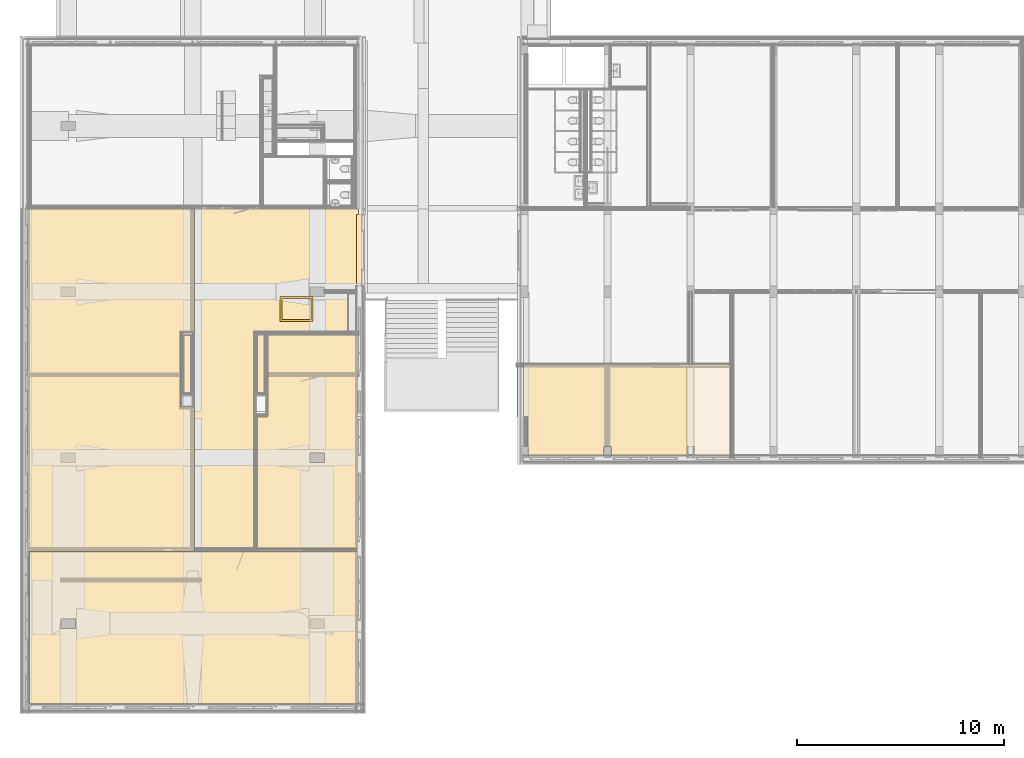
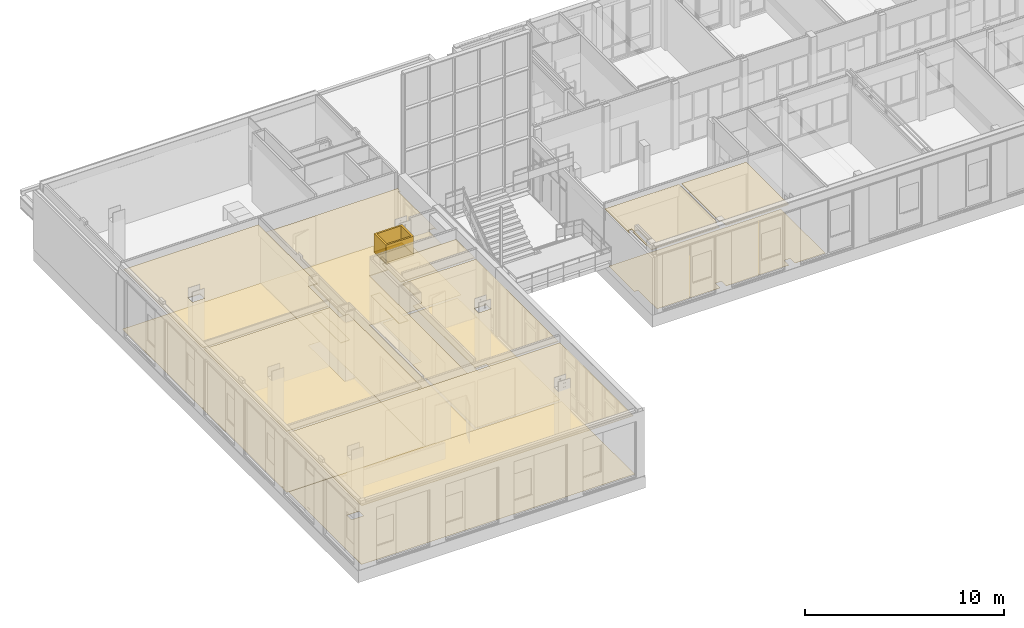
# One storey, part 80 of 94: 16 coverings.
"""IFC2X3 building model written with IfcOpenShell, lengths in millimetres."""

from ifc_helpers import new_model, entity, si_unit, converted_unit, derived_unit, money_unit, direction, frame, origin_with_axes, place, context, subcontext, project, spatial, faceted_brep, material, type_object, element, save


model = new_model("IFC2X3")

# Units and contexts
model_context = context("Model", 3, precision=0.01, world=origin_with_axes(), true_north=direction((0.0, 1.0)))
body_context = subcontext(model_context, "Body", "Model", "MODEL_VIEW")
ifc_project = project(units=[si_unit("LENGTHUNIT", "METRE", prefix="MILLI"), si_unit("AREAUNIT", "SQUARE_METRE"), si_unit("VOLUMEUNIT", "CUBIC_METRE"), converted_unit("PLANEANGLEUNIT", "DEGREE", entity("IfcPlaneAngleMeasure", 0.0174532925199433), si_unit("PLANEANGLEUNIT", "RADIAN"), dimensions=[0, 0, 0, 0, 0, 0, 0]), money_unit("EUR"), converted_unit("TIMEUNIT", "Year", entity("IfcTimeMeasure", 31557600.0), si_unit("TIMEUNIT", "SECOND"), dimensions=[0, 0, 1, 0, 0, 0, 0]), si_unit("MASSUNIT", "GRAM", prefix="KILO"), si_unit("THERMODYNAMICTEMPERATUREUNIT", "DEGREE_CELSIUS"), si_unit("LUMINOUSINTENSITYUNIT", "LUMEN"), si_unit("ENERGYUNIT", "JOULE", prefix="MEGA"), derived_unit("THERMALCONDUCTANCEUNIT", [(si_unit("POWERUNIT", "WATT"), 1), (si_unit("LENGTHUNIT", "METRE"), -1), (si_unit("THERMODYNAMICTEMPERATUREUNIT", "KELVIN"), -1)]), derived_unit("SPECIFICHEATCAPACITYUNIT", [(si_unit("ENERGYUNIT", "JOULE"), 1), (si_unit("MASSUNIT", "GRAM", prefix="KILO"), -1), (si_unit("THERMODYNAMICTEMPERATUREUNIT", "KELVIN"), -1)]), derived_unit("MASSDENSITYUNIT", [(si_unit("MASSUNIT", "GRAM", prefix="KILO"), 1), (si_unit("VOLUMEUNIT", "CUBIC_METRE"), -1)])], contexts=[model_context])

# Site, building, storey
site_placement = place(None, origin_with_axes())
site = spatial("IfcSite", under=ifc_project, at=site_placement, Name="<site naam>", CompositionType="ELEMENT")
building_placement = place(site_placement, origin_with_axes())
building = spatial("IfcBuilding", under=site, at=building_placement, Name="<Naam gebouw>", CompositionType="ELEMENT")
storey_placement = place(building_placement, frame((0.0, 0.0, 4250.0), z_axis=(0.0, 0.0, 1.0), x_axis=(1.0, 0.0, 0.0)))
storey = spatial("IfcBuildingStorey", under=building, at=storey_placement, Name="01 1e verdieping", CompositionType="ELEMENT", Elevation=4250.0)

# Coverings
ifc_material_1 = material(Name="systeemplafond 600*600 kleur wit")
covering_type_1 = type_object("IfcCoveringType", Name="PA-01a 40", PredefinedType="CEILING")
covering_1_placement = place(storey_placement, frame((-11970.99999882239, -4376.565197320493, 3600.0), z_axis=(0.0, 0.0, 1.0), x_axis=(1.0, 0.0, 0.0)))
element("IfcCovering", 1, at=covering_1_placement, inside=storey, type_object=covering_type_1, material=ifc_material_1, Name="45_Vloer_PA-01a", PredefinedType="CEILING", context=body_context, shape_type="Brep", body=[
    faceted_brep([(7376.00057698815, 8314.065197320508, 0.0), (80.49999882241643, 8314.065197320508, 0.0), (80.49999882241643, 8314.065197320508, 40.00000000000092), (7376.00057698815, 8314.065197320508, 40.00000000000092), (7896.000027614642, 0.0, 0.0), (80.49999882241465, 0.0, 0.0), (7376.00057698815, 7331.668955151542, 0.0), (7896.000027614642, 7331.668955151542, 0.0), (80.49999882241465, 0.0, 40.00000000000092), (7896.000027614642, 0.0, 40.00000000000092), (7896.000027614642, 7331.668955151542, 40.00000000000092), (7376.00057698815, 7331.668955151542, 40.00000000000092)], [[[0, 1, 2, 3]], [[4, 5, 1, 0, 6, 7]], [[5, 8, 2, 1]], [[3, 2, 8, 9, 10, 11]], [[3, 11, 6, 0]], [[9, 8, 5, 4]], [[11, 10, 7, 6]], [[10, 9, 4, 7]]]),
])
covering_2_placement = place(storey_placement, frame((11626.61799167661, 4385.011925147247, 3700.0), z_axis=(0.0, 0.0, 1.0), x_axis=(1.0, 0.0, 0.0)))
element("IfcCovering", 2, at=covering_2_placement, inside=storey, type_object=covering_type_1, material=ifc_material_1, Name="45_Vloer_PA-01a", PredefinedType="CEILING", context=body_context, shape_type="Brep", body=[
    faceted_brep([(295.9512778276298, -2237.021152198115, 0.0), (276.4043794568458, -2237.021152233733, 0.0), (276.4043794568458, -2237.021152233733, 40.00000000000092), (295.9512778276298, -2237.021152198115, 40.00000000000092), (212.8525614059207, -2469.52422524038, 0.0), (276.4043794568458, -2469.52422524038, 0.0), (295.9512834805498, -2489.071134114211, 0.0), (295.9043711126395, -2489.024220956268, 0.0), (212.8525614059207, -2489.024220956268, 0.0), (276.4043794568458, -2469.52422524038, 40.00000000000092), (212.8525614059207, -2469.52422524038, 40.00000000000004), (212.8525614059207, -2489.024220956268, 40.00000000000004), (295.9043711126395, -2489.024220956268, 40.00000000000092), (295.9512834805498, -2489.071134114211, 40.00000000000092)], [[[0, 1, 2, 3]], [[4, 5, 1, 0, 6, 7, 8]], [[5, 9, 2, 1]], [[2, 9, 10, 11, 12, 13, 3]], [[0, 3, 13, 6]], [[4, 10, 9, 5]], [[7, 6, 13, 12]], [[7, 12, 11, 8]], [[11, 10, 4, 8]]]),
    faceted_brep([(242.4043692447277, -2217.556166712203, 40.00000000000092), (277.377945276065, -2217.556167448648, 40.00000000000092), (277.377945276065, -2236.021274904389, 40.00000000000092), (296.9043723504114, -2236.021274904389, 40.00000000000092), (296.9043723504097, -2490.024226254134, 40.00000000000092), (212.8525614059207, -2490.024226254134, 40.00000000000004), (212.8525614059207, -3835.011925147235, 40.00000000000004), (237.8525236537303, -3835.011925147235, 40.00000000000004), (237.8525236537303, -4269.011844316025, 40.00000000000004), (4198.382036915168, -4269.011844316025, 40.00000000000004), (4198.382036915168, -3835.011925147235, 40.00000000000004), (4298.382008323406, -3835.011925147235, 40.00000000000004), (4298.382008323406, 0.0, 40.00000000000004), (0.0, 0.0, 40.00000000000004), (0.0, -2430.011875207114, 40.00000000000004), (38.38195643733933, -2430.011875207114, 40.00000000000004), (38.38195600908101, -2231.021274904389, 40.00000000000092), (242.4043692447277, -2231.021276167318, 40.00000000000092), (308.3820460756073, -2430.011947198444, 40.00000000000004), (510.8820460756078, -2430.011947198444, 40.00000000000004), (510.8820460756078, -3835.011858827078, 40.00000000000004), (308.3820460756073, -3835.011858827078, 40.00000000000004), (242.4043692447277, -2217.556166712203, 0.0), (277.377945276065, -2217.556167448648, 0.0), (277.377945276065, -2236.021274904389, 0.0), (296.9043723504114, -2236.021274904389, 0.0), (296.9043723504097, -2490.024226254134, 0.0), (212.8525614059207, -2490.024226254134, 0.0), (212.8525614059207, -3835.011925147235, 0.0), (237.8525236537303, -3835.011925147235, 0.0), (237.8525236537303, -4269.011844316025, 0.0), (4198.382036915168, -4269.011844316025, 0.0), (4198.382036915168, -3835.011925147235, 0.0), (4298.382008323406, -3835.011925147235, 0.0), (4298.382008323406, 0.0, 0.0), (0.0, 0.0, 0.0), (0.0, -2430.011875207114, 0.0), (38.38195643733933, -2430.011875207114, 0.0), (38.38195600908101, -2231.021274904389, 0.0), (242.4043692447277, -2231.021276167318, 0.0), (308.3820460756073, -2430.011947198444, 0.0), (510.8820460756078, -2430.011947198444, 0.0), (510.8820460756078, -3835.011858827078, 0.0), (308.3820460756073, -3835.011858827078, 0.0)], [[[0, 1, 2, 3, 4, 5, 6, 7, 8, 9, 10, 11, 12, 13, 14, 15, 16, 17], [18, 19, 20, 21]], [[0, 22, 23, 1]], [[24, 2, 1, 23]], [[25, 3, 2, 24]], [[26, 4, 3, 25]], [[5, 4, 26, 27]], [[6, 5, 27, 28]], [[29, 7, 6, 28]], [[30, 8, 7, 29]], [[31, 9, 8, 30]], [[32, 10, 9, 31]], [[33, 11, 10, 32]], [[34, 12, 11, 33]], [[35, 13, 12, 34]], [[36, 14, 13, 35]], [[36, 37, 15, 14]], [[38, 16, 15, 37]], [[38, 39, 17, 16]], [[22, 0, 17, 39]], [[18, 40, 41, 19]], [[41, 42, 20, 19]], [[43, 21, 20, 42]], [[43, 40, 18, 21]], [[23, 22, 39, 38, 37, 36, 35, 34, 33, 32, 31, 30, 29, 28, 27, 26, 25, 24], [43, 42, 41, 40]]]),
])
covering_3_placement = place(storey_placement, frame((3970.044465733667, 5924.99995037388, 3600.0), z_axis=(0.0, 0.0, 1.0), x_axis=(1.0, 0.0, 0.0)))
element("IfcCovering", 3, at=covering_3_placement, inside=storey, type_object=covering_type_1, material=ifc_material_1, Name="45_Vloer_PA-01a", PredefinedType="CEILING", context=body_context, shape_type="Brep", body=[
    faceted_brep([(-79.50002639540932, 0.0, 0.0), (-4362.54446573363, 0.0, 0.0), (-4362.54446573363, 0.0, 40.00000000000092), (-79.50002639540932, 0.0, 40.00000000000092), (-79.50002639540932, -1849.999909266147, 0.0), (-4362.544465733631, -1849.999909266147, 0.0), (-4362.544465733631, -1849.999909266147, 40.00000000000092), (-79.50002639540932, -1849.999909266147, 40.00000000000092)], [[[0, 1, 2, 3]], [[4, 5, 1, 0]], [[5, 6, 2, 1]], [[3, 2, 6, 7]], [[4, 0, 3, 7]], [[7, 6, 5, 4]]]),
])
covering_4_placement = place(storey_placement, frame((-899.9999801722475, 224.9999499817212, 3600.0), z_axis=(0.0, 0.0, 1.0), x_axis=(1.0, 0.0, 0.0)))
element("IfcCovering", 4, at=covering_4_placement, inside=storey, type_object=covering_type_1, material=ifc_material_1, Name="45_Vloer_PA-01a", PredefinedType="CEILING", context=body_context, shape_type="Brep", body=[
    faceted_brep([(0.0, -4601.565170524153, 40.00000000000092), (0.0, -4601.565170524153, 0.0), (4784.044407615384, -4601.565170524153, 0.0), (4784.044407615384, -4601.565170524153, 40.00000000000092), (0.0, 1750.000050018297, 40.00000000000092), (0.0, 1750.000050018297, 0.0), (519.999997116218, 1750.000050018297, 0.0), (519.999997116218, 3700.000055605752, 0.0), (4784.044407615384, 3700.000055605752, 0.0), (3249.999920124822, 0.0, 0.0), (2549.999943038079, 0.0, 0.0), (2549.999943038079, -449.999888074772, 0.0), (3249.999920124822, -449.999888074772, 0.0), (4784.044407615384, 3700.000055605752, 40.00000000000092), (519.999997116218, 3700.000055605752, 40.00000000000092), (519.999997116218, 1750.000050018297, 40.00000000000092), (2549.999943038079, -449.999888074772, 40.00000000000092), (2549.999943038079, 0.0, 40.00000000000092), (3249.999920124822, 0.0, 40.00000000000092), (3249.999920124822, -449.999888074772, 40.00000000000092)], [[[0, 1, 2, 3]], [[4, 5, 1, 0]], [[1, 5, 6, 7, 8, 2], [9, 10, 11, 12]], [[3, 2, 8, 13]], [[4, 0, 3, 13, 14, 15], [16, 17, 18, 19]], [[15, 6, 5, 4]], [[14, 7, 6, 15]], [[13, 8, 7, 14]], [[17, 10, 9, 18]], [[16, 11, 10, 17]], [[19, 12, 11, 16]], [[18, 9, 12, 19]]]),
])
covering_5_placement = place(storey_placement, frame((-4074.999953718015, 12000.00000000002, 3600.0), z_axis=(0.0, 0.0, 1.0), x_axis=(1.0, 0.0, 0.0)))
element("IfcCovering", 5, at=covering_5_placement, inside=storey, type_object=covering_type_1, material=ifc_material_1, Name="45_Vloer_PA-01a", PredefinedType="CEILING", context=body_context, shape_type="Brep", body=[
    faceted_brep([(0.0, 0.0, 40.00000000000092), (0.0, 0.0, 0.0), (-7809.000046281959, 0.0, 0.0), (-7809.000046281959, 0.0, 40.00000000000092), (0.0, -5924.896310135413, 40.00000000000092), (0.0, -5924.896310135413, 0.0), (-519.9994681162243, -5924.896310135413, 0.0), (-519.9994681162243, -7937.500000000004, 0.0), (-7809.000046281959, -7937.500000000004, 0.0), (-6275.000046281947, -4225.000018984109, 0.0), (-5575.000046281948, -4225.000018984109, 0.0), (-5575.000046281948, -3775.000044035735, 0.0), (-6275.000046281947, -3775.000044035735, 0.0), (-7809.000046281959, -7937.500000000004, 40.00000000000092), (-519.9994681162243, -7937.500000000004, 40.00000000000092), (-519.9994681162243, -5924.896310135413, 40.00000000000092), (-5575.000046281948, -3775.000044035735, 40.00000000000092), (-5575.000046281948, -4225.000018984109, 40.00000000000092), (-6275.000046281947, -4225.000018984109, 40.00000000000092), (-6275.000046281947, -3775.000044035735, 40.00000000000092)], [[[0, 1, 2, 3]], [[4, 5, 1, 0]], [[2, 1, 5, 6, 7, 8], [9, 10, 11, 12]], [[3, 2, 8, 13]], [[4, 0, 3, 13, 14, 15], [16, 17, 18, 19]], [[15, 6, 5, 4]], [[14, 7, 6, 15]], [[13, 8, 7, 14]], [[17, 10, 9, 18]], [[16, 11, 10, 17]], [[19, 12, 11, 16]], [[18, 9, 12, 19]]]),
])
covering_6_placement = place(storey_placement, frame((3883.130707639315, -4526.565220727, 3600.0), z_axis=(0.0, 0.0, 1.0), x_axis=(1.0, 0.0, 0.0)))
element("IfcCovering", 6, at=covering_6_placement, inside=storey, type_object=covering_type_1, material=ifc_material_1, Name="45_Vloer_PA-01a", PredefinedType="CEILING", context=body_context, shape_type="Brep", body=[
    faceted_brep([(-15767.13070763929, 0.0, 40.00000000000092), (0.0, 0.0, 40.00000000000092), (0.0, 0.0, 0.0), (-15767.13070763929, 0.0, 0.0), (-15767.13070763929, -7357.434779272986, 40.00000000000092), (0.0, -7357.434779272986, 40.00000000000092), (0.0, -7357.434779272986, 0.0), (-15767.13070763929, -7357.434779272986, 0.0)], [[[0, 1, 2, 3]], [[4, 5, 1, 0]], [[1, 5, 6, 2]], [[7, 3, 2, 6]], [[4, 0, 3, 7]], [[5, 4, 7, 6]]]),
])
covering_7_placement = place(storey_placement, frame((16075.00615436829, 550.0001262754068, 3700.0), z_axis=(0.0, 0.0, 1.0), x_axis=(1.0, 0.0, 0.0)))
element("IfcCovering", 7, at=covering_7_placement, inside=storey, type_object=covering_type_1, material=ifc_material_1, Name="45_Vloer_PA-01a", PredefinedType="CEILING", context=body_context, shape_type="Brep", body=[
    faceted_brep([(99.99989282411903, 0.0, 40.00000000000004), (99.99989282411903, -440.5001262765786, 40.00000000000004), (3750.000081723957, -440.5001262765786, 40.00000000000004), (3750.000081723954, 3824.999841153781, 40.00000000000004), (0.0, 3824.999841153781, 40.00000000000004), (0.0, 0.0, 40.00000000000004), (99.99989282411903, 0.0, 0.0), (99.99989282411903, -440.5001262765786, 0.0), (3750.000081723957, -440.5001262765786, 0.0), (3750.000081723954, 3824.999841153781, 0.0), (0.0, 3824.999841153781, 0.0), (0.0, 0.0, 0.0)], [[[0, 1, 2, 3, 4, 5]], [[6, 7, 1, 0]], [[7, 8, 2, 1]], [[3, 2, 8, 9]], [[4, 3, 9, 10]], [[5, 4, 10, 11]], [[0, 5, 11, 6]], [[9, 8, 7, 6, 11, 10]]]),
])
ifc_material_2 = material(Name="systeemplafond 600*600")
covering_type_2 = type_object("IfcCoveringType", Name="PA-01c 40", PredefinedType="CEILING")
covering_8_placement = place(storey_placement, frame((-3925.000046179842, -4376.565187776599, 3000.0), z_axis=(0.0, 0.0, 1.0), x_axis=(1.0, 0.0, 0.0)))
element("IfcCovering", 8, at=covering_8_placement, inside=storey, type_object=covering_type_2, material=ifc_material_2, Name="45_Vloer_PA-01c", PredefinedType="CEILING", context=body_context, shape_type="Brep", body=[
    faceted_brep([(7409.001798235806, 12301.56518777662, 40.00000000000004), (7409.001798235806, 12439.06518777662, 40.00000000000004), (7809.044485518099, 12439.06518777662, 40.00000000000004), (7809.044485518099, 12301.56518777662, 40.00000000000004), (7815.544485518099, 12301.56518777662, 40.00000000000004), (7815.544485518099, 12651.72781439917, 40.00000000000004), (7819.544485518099, 12651.72781439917, 40.00000000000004), (7819.5444855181, 16101.96201869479, 40.00000000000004), (7925.0445143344, 16101.96201869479, 40.00000000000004), (7925.044514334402, 16376.56518777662, 40.00000000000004), (7735.044514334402, 16376.56518777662, 40.00000000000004), (7735.044514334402, 16376.64651224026, 40.00000000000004), (0.0, 16376.64651224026, 40.00000000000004), (0.0, 0.0, 40.00000000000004), (2874.999888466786, 0.0, 40.00000000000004), (2874.999888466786, 10451.56527172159, 40.00000000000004), (7409.001798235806, 10451.56527172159, 40.00000000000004), (4125.000046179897, 12151.5651847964, 40.00000000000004), (5725.000046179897, 12151.5651847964, 40.00000000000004), (5725.000046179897, 10951.56518777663, 40.00000000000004), (4125.000046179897, 10951.56518777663, 40.00000000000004), (7409.001798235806, 12301.56518777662, 0.0), (7409.001798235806, 12439.06518777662, 0.0), (7809.044485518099, 12439.06518777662, 0.0), (7809.044485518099, 12301.56518777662, 0.0), (7815.544485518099, 12301.56518777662, 0.0), (7815.544485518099, 12651.72781439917, 0.0), (7819.544485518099, 12651.72781439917, 0.0), (7819.5444855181, 16101.96201869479, 0.0), (7925.0445143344, 16101.96201869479, 0.0), (7925.044514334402, 16376.56518777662, 0.0), (7735.044514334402, 16376.56518777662, 0.0), (7735.044514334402, 16376.64651224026, 0.0), (0.0, 16376.64651224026, 0.0), (0.0, 0.0, 0.0), (2874.999888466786, 0.0, 0.0), (2874.999888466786, 10451.56527172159, 0.0), (7409.001798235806, 10451.56527172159, 0.0), (4125.000046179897, 12151.5651847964, 0.0), (5725.000046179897, 12151.5651847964, 0.0), (5725.000046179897, 10951.56518777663, 0.0), (4125.000046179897, 10951.56518777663, 0.0)], [[[0, 1, 2, 3, 4, 5, 6, 7, 8, 9, 10, 11, 12, 13, 14, 15, 16], [17, 18, 19, 20]], [[21, 22, 1, 0]], [[23, 2, 1, 22]], [[3, 2, 23, 24]], [[4, 3, 24, 25]], [[26, 5, 4, 25]], [[26, 27, 6, 5]], [[7, 6, 27, 28]], [[28, 29, 8, 7]], [[29, 30, 9, 8]], [[9, 30, 31, 10]], [[31, 32, 11, 10]], [[12, 11, 32, 33]], [[13, 12, 33, 34]], [[14, 13, 34, 35]], [[15, 14, 35, 36]], [[16, 15, 36, 37]], [[37, 21, 0, 16]], [[18, 17, 38, 39]], [[19, 18, 39, 40]], [[20, 19, 40, 41]], [[17, 20, 41, 38]], [[23, 22, 21, 37, 36, 35, 34, 33, 32, 31, 30, 29, 28, 27, 26, 25, 24], [38, 41, 40, 39]]]),
])
ifc_material_3 = material(Name="tapijttegel")
covering_type_3 = type_object("IfcCoveringType", Name="VA-05 3", PredefinedType="CEILING")
covering_9_placement = place(storey_placement, frame((-3924.999876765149, -4526.56526907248, 0.0), z_axis=(0.0, 0.0, 1.0), x_axis=(1.0, 0.0, 0.0)))
element("IfcCovering", 9, at=covering_9_placement, inside=storey, type_object=covering_type_3, material=ifc_material_3, Name="43_Vloer_VA-05", PredefinedType="CEILING", context=body_context, shape_type="Brep", body=[
    faceted_brep([(-7953.000123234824, 0.0, 3.000000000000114), (-7953.000123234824, 0.0, 0.0), (-7953.000123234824, -7353.466352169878, 0.0), (-7953.000123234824, -7353.466352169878, 3.000000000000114), (7895.044469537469, 0.0, 3.000000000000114), (7895.044469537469, 0.0, 0.0), (7895.044469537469, -7353.466352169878, 0.0), (-6425.000125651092, -3698.434904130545, 0.0), (-5725.000079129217, -3698.434904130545, 0.0), (-5725.000079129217, -3248.434798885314, 0.0), (-6425.000125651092, -3248.434798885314, 0.0), (7895.044469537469, -7353.466352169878, 3.000000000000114), (-5725.000079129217, -3248.434798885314, 3.000000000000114), (-5725.000079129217, -3698.434904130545, 3.000000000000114), (-6425.000125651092, -3698.434904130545, 3.000000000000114), (-6425.000125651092, -3248.434798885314, 3.000000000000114)], [[[0, 1, 2, 3]], [[4, 5, 1, 0]], [[1, 5, 6, 2], [7, 8, 9, 10]], [[3, 2, 6, 11]], [[4, 0, 3, 11], [12, 13, 14, 15]], [[11, 6, 5, 4]], [[13, 8, 7, 14]], [[12, 9, 8, 13]], [[15, 10, 9, 12]], [[14, 7, 10, 15]]]),
])
covering_10_placement = place(storey_placement, frame((21925.00639332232, 4524.999967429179, 19.99999999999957), z_axis=(0.0, 0.0, 1.0), x_axis=(1.0, 0.0, 0.0)))
element("IfcCovering", 10, at=covering_10_placement, inside=storey, type_object=covering_type_3, material=ifc_material_3, Name="43_Vloer_VA-05", PredefinedType="CEILING", context=body_context, shape_type="Brep", body=[
    faceted_brep([(0.0, 0.0, 3.000000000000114), (0.0, 0.0, 0.0), (-9990.006441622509, 0.0, 0.0), (-9990.006441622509, 0.0, 3.000000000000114), (0.0, -4450.01672224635, 3.000000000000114), (0.0, -4450.01672224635, 0.0), (-1750.006489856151, -4450.01672224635, 0.0), (-1750.006489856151, -3975.00001350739, 0.0), (-2100.0063642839, -3975.00001350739, 0.0), (-2100.0063642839, -4450.01672224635, 0.0), (-5750.006376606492, -4450.01672224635, 0.0), (-5750.006376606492, -3975.00001350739, 0.0), (-6100.006428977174, -3975.00001350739, 0.0), (-6100.006428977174, -4450.01672224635, 0.0), (-9750.00644129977, -4450.01672224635, 0.0), (-9750.00644129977, -3975.00001350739, 0.0), (-9775.006356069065, -3975.00001350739, 0.0), (-9775.006356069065, -2569.99996342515, 0.0), (-9990.006441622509, -2569.99996342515, 0.0), (-9990.006441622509, -2569.99996342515, 3.000000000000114), (-9775.006356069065, -2569.99996342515, 3.000000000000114), (-9775.006356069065, -3975.00001350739, 3.000000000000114), (-9750.00644129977, -3975.00001350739, 3.000000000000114), (-9750.00644129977, -4450.01672224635, 3.000000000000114), (-6100.006428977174, -4450.01672224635, 3.000000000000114), (-6100.006428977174, -3975.00001350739, 3.000000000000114), (-5750.006376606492, -3975.00001350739, 3.000000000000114), (-5750.006376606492, -4450.01672224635, 3.000000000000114), (-2100.0063642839, -4450.01672224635, 3.000000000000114), (-2100.0063642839, -3975.00001350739, 3.000000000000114), (-1750.006489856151, -3975.00001350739, 3.000000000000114), (-1750.006489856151, -4450.01672224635, 3.000000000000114)], [[[0, 1, 2, 3]], [[4, 5, 1, 0]], [[2, 1, 5, 6, 7, 8, 9, 10, 11, 12, 13, 14, 15, 16, 17, 18]], [[3, 2, 18, 19]], [[4, 0, 3, 19, 20, 21, 22, 23, 24, 25, 26, 27, 28, 29, 30, 31]], [[31, 6, 5, 4]], [[30, 7, 6, 31]], [[29, 8, 7, 30]], [[28, 9, 8, 29]], [[27, 10, 9, 28]], [[26, 11, 10, 27]], [[25, 12, 11, 26]], [[24, 13, 12, 25]], [[23, 14, 13, 24]], [[22, 15, 14, 23]], [[21, 16, 15, 22]], [[20, 17, 16, 21]], [[19, 18, 17, 20]]]),
])
covering_11_placement = place(storey_placement, frame((-899.999930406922, -4376.565234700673, 0.0), z_axis=(0.0, 0.0, 1.0), x_axis=(1.0, 0.0, 0.0)))
element("IfcCovering", 11, at=covering_11_placement, inside=storey, type_object=covering_type_3, material=ifc_material_3, Name="43_Vloer_VA-05", PredefinedType="CEILING", context=body_context, shape_type="Brep", body=[
    faceted_brep([(4819.499929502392, 426.5652347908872, 3.000000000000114), (4827.499931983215, 426.5652348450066, 3.000000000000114), (4827.499931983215, 379.0652347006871, 3.000000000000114), (4870.044383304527, 379.065234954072, 3.000000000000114), (4870.044383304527, 8374.065234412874, 3.000000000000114), (4827.499931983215, 8374.065234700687, 3.000000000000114), (4827.499931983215, 8326.565234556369, 3.000000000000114), (4819.499929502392, 8326.565234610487, 3.000000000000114), (4819.499929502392, 8426.565234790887, 3.000000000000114), (4827.499931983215, 8426.565234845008, 3.000000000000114), (4827.499931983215, 8379.065234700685, 3.000000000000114), (4870.044383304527, 8379.06523495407, 3.000000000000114), (4870.044383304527, 10301.56520295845, 3.000000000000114), (519.9999304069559, 10301.56520295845, 3.000000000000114), (519.9999304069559, 6389.065234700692, 3.000000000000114), (0.0, 6389.065234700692, 3.000000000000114), (0.0, 0.0, 3.000000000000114), (4870.044383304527, 0.0, 3.000000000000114), (4870.044383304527, 374.0652344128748, 3.000000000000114), (4827.499931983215, 374.0652347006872, 3.000000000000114), (4827.499931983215, 326.5652345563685, 3.000000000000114), (4819.499929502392, 326.5652346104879, 3.000000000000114), (2549.999996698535, 4601.565229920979, 3.000000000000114), (3249.999861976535, 4601.565229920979, 3.000000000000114), (3249.999861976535, 4151.565161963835, 3.000000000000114), (2549.999996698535, 4151.565161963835, 3.000000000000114), (4827.499931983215, 426.5652348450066, 0.0), (4819.499929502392, 426.5652347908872, 0.0), (4827.499931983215, 379.0652347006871, 0.0), (4870.044383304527, 379.0652347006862, 0.0), (4870.044383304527, 8374.065234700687, 0.0), (4827.499931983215, 8374.065234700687, 0.0), (4827.499931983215, 8326.565234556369, 0.0), (4819.499929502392, 8326.565234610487, 0.0), (4819.499929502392, 8426.565234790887, 0.0), (4827.499931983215, 8426.565234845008, 0.0), (4827.499931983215, 8379.065234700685, 0.0), (4870.044383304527, 8379.065234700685, 0.0), (4870.044383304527, 10301.56520295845, 0.0), (519.9999304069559, 10301.56520295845, 0.0), (519.9999304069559, 6389.065234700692, 0.0), (0.0, 6389.065234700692, 0.0), (0.0, 0.0, 0.0), (4870.044383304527, 0.0, 0.0), (4870.044383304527, 374.0652347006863, 0.0), (4827.499931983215, 374.0652347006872, 0.0), (4827.499931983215, 326.5652345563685, 0.0), (4819.499929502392, 326.5652346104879, 0.0), (2549.999996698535, 4601.565229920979, 0.0), (3249.999861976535, 4601.565229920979, 0.0), (3249.999861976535, 4151.565161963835, 0.0), (2549.999996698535, 4151.565161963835, 0.0)], [[[0, 1, 2, 3, 4, 5, 6, 7, 8, 9, 10, 11, 12, 13, 14, 15, 16, 17, 18, 19, 20, 21], [22, 23, 24, 25]], [[26, 1, 0, 27]], [[28, 2, 1, 26]], [[28, 29, 3, 2]], [[4, 3, 29, 30]], [[31, 5, 4, 30]], [[32, 6, 5, 31]], [[33, 7, 6, 32]], [[34, 8, 7, 33]], [[35, 9, 8, 34]], [[36, 10, 9, 35]], [[36, 37, 11, 10]], [[12, 11, 37, 38]], [[13, 12, 38, 39]], [[14, 13, 39, 40]], [[15, 14, 40, 41]], [[16, 15, 41, 42]], [[17, 16, 42, 43]], [[43, 44, 18, 17]], [[45, 19, 18, 44]], [[46, 20, 19, 45]], [[47, 21, 20, 46]], [[27, 0, 21, 47]], [[23, 22, 48, 49]], [[24, 23, 49, 50]], [[25, 24, 50, 51]], [[22, 25, 51, 48]], [[46, 45, 44, 43, 42, 41, 40, 39, 38, 37, 36, 35, 34, 33, 32, 31, 30, 29, 28, 26, 27, 47], [48, 51, 50, 49]]]),
])
ifc_material_4 = material(Name="Vinyl type 01b")
covering_type_4 = type_object("IfcCoveringType", Name="VA-01b 3", PredefinedType="CEILING")
covering_12_placement = place(storey_placement, frame((-3925.000177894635, -4526.565204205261, 0.0), z_axis=(0.0, 0.0, 1.0), x_axis=(1.0, 0.0, 0.0)))
element("IfcCovering", 12, at=covering_12_placement, inside=storey, type_object=covering_type_4, material=ifc_material_4, Name="43_Vloer_VA-01b", PredefinedType="CEILING", context=body_context, shape_type="Brep", body=[
    faceted_brep([(8195.044437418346, 10601.56513512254, 0.0), (8195.044437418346, 16457.54395654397, 0.0), (8195.044437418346, 16457.54395654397, 3.000000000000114), (8195.044437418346, 10601.56513512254, 3.000000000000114), (8145.000334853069, 16526.565137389, 0.0), (8145.000334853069, 16457.54395654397, 0.0), (2875.000326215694, 10601.56513512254, 0.0), (2875.000326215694, 0.0002864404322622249, 0.0), (0.0, 0.0, 0.0), (0.0, 16526.565137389, 0.0), (8145.000334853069, 16457.54395654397, 3.000000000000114), (8145.000334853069, 16526.565137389, 3.000000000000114), (0.0, 16526.565137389, 3.000000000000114), (0.0, 0.0, 3.000000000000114), (2875.000326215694, 0.0002864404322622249, 3.000000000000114), (2875.000326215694, 10601.56513512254, 3.000000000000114)], [[[0, 1, 2, 3]], [[4, 5, 1, 0, 6, 7, 8, 9]], [[5, 10, 2, 1]], [[2, 10, 11, 12, 13, 14, 15, 3]], [[3, 15, 6, 0]], [[5, 4, 11, 10]], [[15, 14, 7, 6]], [[14, 13, 8, 7]], [[13, 12, 9, 8]], [[12, 11, 4, 9]]]),
    faceted_brep([(8195.044437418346, 16526.565137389, 3.000000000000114), (8153.000334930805, 16526.565137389, 3.000000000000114), (8153.000334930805, 16465.54395662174, 3.000000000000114), (8195.044437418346, 16465.54395662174, 3.000000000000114), (8195.044437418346, 16526.565137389, 0.0), (8153.000334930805, 16526.565137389, 0.0), (8153.000334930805, 16465.54395662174, 0.0), (8195.044437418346, 16465.54395662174, 0.0)], [[[0, 1, 2, 3]], [[4, 5, 1, 0]], [[6, 2, 1, 5]], [[6, 7, 3, 2]], [[0, 3, 7, 4]], [[7, 6, 5, 4]]]),
])
ifc_material_5 = material(Name="Vinyl type 01e (1)")
covering_type_5 = type_object("IfcCoveringType", Name="VA-01e 3", PredefinedType="CEILING")
covering_13_placement = place(storey_placement, frame((-11970.99999999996, 12000.00006135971, 0.0), z_axis=(0.0, 0.0, 1.0), x_axis=(1.0, 0.0, 0.0)))
element("IfcCovering", 13, at=covering_13_placement, inside=storey, type_object=covering_type_5, material=ifc_material_5, Name="43_Vloer_VA-01e", PredefinedType="CEILING", context=body_context, shape_type="Brep", body=[
    faceted_brep([(0.9678329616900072, -15997.50006107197, 3.000000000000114), (43.49999842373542, -15997.5000613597, 3.000000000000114), (43.49999842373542, -15950.00006121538, 3.000000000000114), (51.5000009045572, -15950.0000612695, 3.000000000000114), (51.5000009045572, -16050.0000614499, 3.000000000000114), (43.49999842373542, -16050.00006150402, 3.000000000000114), (43.49999842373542, -16002.5000613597, 3.000000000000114), (0.9681354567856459, -16002.50006161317, 3.000000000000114), (0.9998408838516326, -16526.56525829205, 3.000000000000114), (8046.000089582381, -16526.56525829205, 3.000000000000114), (8046.000089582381, -9532.532062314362, 3.000000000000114), (7376.000578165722, -9532.532062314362, 3.000000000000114), (7376.000578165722, -5924.896265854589, 3.000000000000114), (8046.000089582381, -5924.896265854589, 3.000000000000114), (8046.000089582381, 0.06575308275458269, 3.000000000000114), (0.0, 0.0, 3.000000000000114), (0.4838408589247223, -7997.500061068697, 3.000000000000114), (43.49999842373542, -7997.500061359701, 3.000000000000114), (43.49999842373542, -7950.000061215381, 3.000000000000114), (51.5000009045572, -7950.0000612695, 3.000000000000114), (51.5000009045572, -8050.0000614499, 3.000000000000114), (43.49999842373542, -8050.000061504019, 3.000000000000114), (43.49999842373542, -8002.500061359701, 3.000000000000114), (0.4841433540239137, -8002.500061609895, 3.000000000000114), (43.49999842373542, -15997.5000613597, 0.0), (0.9678329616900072, -15997.5000613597, 0.0), (43.49999842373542, -15950.00006121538, 0.0), (51.5000009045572, -15950.0000612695, 0.0), (51.5000009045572, -16050.0000614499, 0.0), (43.49999842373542, -16050.00006150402, 0.0), (43.49999842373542, -16002.5000613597, 0.0), (0.9681354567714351, -16002.5000613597, 0.0), (0.9998408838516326, -16526.56525829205, 0.0), (8046.000089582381, -16526.56525829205, 0.0), (8046.000089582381, -9532.532062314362, 0.0), (7376.000578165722, -9532.532062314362, 0.0), (7376.000578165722, -5924.896265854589, 0.0), (8046.000089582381, -5924.896265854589, 0.0), (8046.000089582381, 0.06575308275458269, 0.0), (0.0, 0.0, 0.0), (0.4838408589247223, -7997.5000613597, 0.0), (43.49999842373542, -7997.500061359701, 0.0), (43.49999842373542, -7950.000061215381, 0.0), (51.5000009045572, -7950.0000612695, 0.0), (51.5000009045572, -8050.0000614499, 0.0), (43.49999842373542, -8050.000061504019, 0.0), (43.49999842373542, -8002.500061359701, 0.0), (0.4841433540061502, -8002.500061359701, 0.0)], [[[0, 1, 2, 3, 4, 5, 6, 7, 8, 9, 10, 11, 12, 13, 14, 15, 16, 17, 18, 19, 20, 21, 22, 23]], [[24, 1, 0, 25]], [[26, 2, 1, 24]], [[27, 3, 2, 26]], [[28, 4, 3, 27]], [[29, 5, 4, 28]], [[30, 6, 5, 29]], [[31, 7, 6, 30]], [[8, 7, 31, 32]], [[9, 8, 32, 33]], [[10, 9, 33, 34]], [[11, 10, 34, 35]], [[12, 11, 35, 36]], [[13, 12, 36, 37]], [[14, 13, 37, 38]], [[15, 14, 38, 39]], [[39, 40, 16, 15]], [[41, 17, 16, 40]], [[42, 18, 17, 41]], [[43, 19, 18, 42]], [[44, 20, 19, 43]], [[45, 21, 20, 44]], [[46, 22, 21, 45]], [[47, 23, 22, 46]], [[47, 25, 0, 23]], [[26, 24, 25, 47, 46, 45, 44, 43, 42, 41, 40, 39, 38, 37, 36, 35, 34, 33, 32, 31, 30, 29, 28, 27]]]),
])
ifc_material_6 = material(Name="aftimmering/koven multiplex")
covering_type_6 = type_object("IfcCoveringType", Name="aftimmering/koven multiplex 1170", PredefinedType="CEILING")
covering_14_placement = place(storey_placement, frame((200.0000000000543, 6575.000000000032, 3000.0), z_axis=(0.0, 0.0, 1.0), x_axis=(1.0, 0.0, 0.0)))
element("IfcCovering", 14, at=covering_14_placement, inside=storey, type_object=covering_type_6, material=ifc_material_6, Name="45_Vloer_aftimmering/koven", PredefinedType="CEILING", context=body_context, shape_type="Brep", body=[
    faceted_brep([(0.0, 0.0, 1170.000000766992), (0.0, 0.0, 0.0), (1600.0, 0.0, 0.0), (1600.0, 0.0, 1170.000000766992), (0.0, 1199.999997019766, 1170.000000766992), (0.0, 1199.999997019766, 0.0), (1600.0, 1199.999997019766, 0.0), (1500.0, 100.0000000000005, 0.0), (1500.0, 1099.999997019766, 0.0), (100.0000000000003, 1099.999997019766, 0.0), (100.0000000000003, 100.0000000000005, 0.0), (1600.0, 1199.999997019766, 1170.000000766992), (100.0000000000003, 1099.999997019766, 1170.000000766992), (1500.0, 1099.999997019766, 1170.000000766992), (1500.0, 100.0000000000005, 1170.000000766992), (100.0000000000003, 100.0000000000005, 1170.000000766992)], [[[0, 1, 2, 3]], [[4, 5, 1, 0]], [[2, 1, 5, 6], [7, 8, 9, 10]], [[3, 2, 6, 11]], [[4, 0, 3, 11], [12, 13, 14, 15]], [[11, 6, 5, 4]], [[13, 8, 7, 14]], [[12, 9, 8, 13]], [[15, 10, 9, 12]], [[14, 7, 10, 15]]]),
])
covering_type_7 = type_object("IfcCoveringType", Name="aftimmering/koven multiplex 10", PredefinedType="CEILING")
covering_15_placement = place(storey_placement, frame((-4444.999421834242, 3105.103741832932, 1900.000000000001), z_axis=(0.0, 0.0, 1.0), x_axis=(1.0, 0.0, 0.0)))
element("IfcCovering", 15, at=covering_15_placement, inside=storey, type_object=covering_type_7, material=ifc_material_6, Name="45_Vloer_aftimmering/koven", PredefinedType="CEILING", context=body_context, shape_type="Brep", body=[
    faceted_brep([(0.0, 0.0, 9.999999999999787), (0.0, 0.0, 0.0), (519.999386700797, 0.0, 0.0), (519.999386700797, 0.0, 9.999999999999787), (0.0, 2819.999999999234, 9.999999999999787), (0.0, 2819.999999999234, 0.0), (519.999386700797, 2819.999999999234, 0.0), (519.999386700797, 2819.999999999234, 9.999999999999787)], [[[0, 1, 2, 3]], [[4, 5, 1, 0]], [[2, 1, 5, 6]], [[3, 2, 6, 7]], [[4, 0, 3, 7]], [[7, 6, 5, 4]]]),
])
covering_16_placement = place(storey_placement, frame((-1049.999999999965, 3105.00000000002, 1900.0), z_axis=(0.0, 0.0, 1.0), x_axis=(1.0, 0.0, 0.0)))
element("IfcCovering", 16, at=covering_16_placement, inside=storey, type_object=covering_type_7, material=ifc_material_6, Name="45_Vloer_aftimmering/koven", PredefinedType="CEILING", context=body_context, shape_type="Brep", body=[
    faceted_brep([(0.0, 0.0, 9.999999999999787), (0.0, 0.0, 0.0), (520.000017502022, 0.0, 0.0), (520.000017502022, 0.0, 9.999999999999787), (0.0, 2819.999999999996, 9.999999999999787), (0.0, 2819.999999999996, 0.0), (520.000017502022, 2819.999999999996, 0.0), (520.000017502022, 2819.999999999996, 9.999999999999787)], [[[0, 1, 2, 3]], [[4, 5, 1, 0]], [[2, 1, 5, 6]], [[3, 2, 6, 7]], [[4, 0, 3, 7]], [[7, 6, 5, 4]]]),
])

save(model, "model.ifc")
